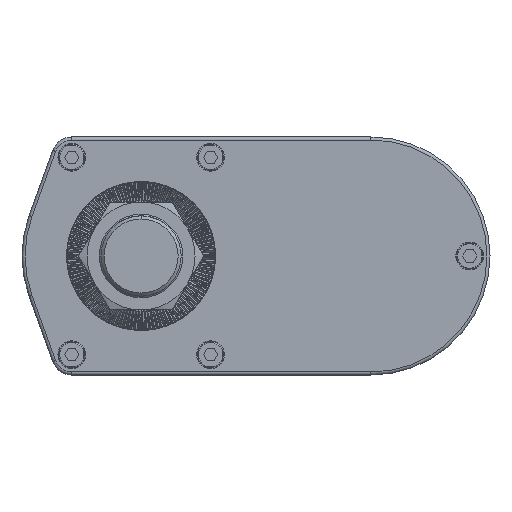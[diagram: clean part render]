
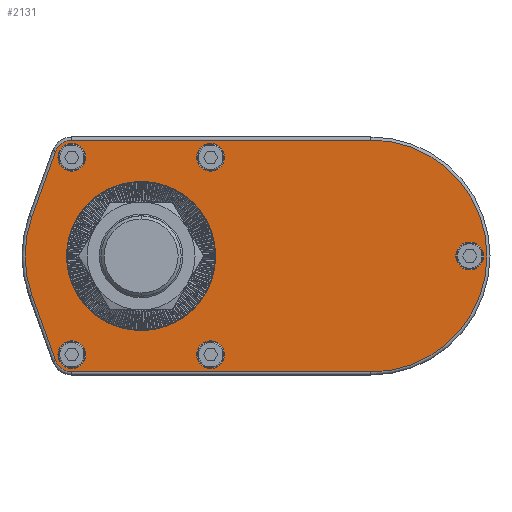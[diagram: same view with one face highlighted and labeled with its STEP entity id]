
A CAD part, left-side view. The second image highlights one B-rep face of the part: STEP entity #2131.
In plain terms, the highlighted planar face has unit normal (-1, 0, 0).
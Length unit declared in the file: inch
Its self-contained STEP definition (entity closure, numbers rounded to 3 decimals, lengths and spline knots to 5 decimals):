
#2131=ADVANCED_FACE('',(#5682,#5683,#5684,#5685,#5686,#5687,#5688),#5689,.F.);
#5682=FACE_BOUND('',#10706,.T.);
#5683=FACE_BOUND('',#10707,.T.);
#5684=FACE_BOUND('',#10708,.T.);
#5685=FACE_BOUND('',#10709,.T.);
#5686=FACE_BOUND('',#10710,.T.);
#5687=FACE_BOUND('',#10711,.T.);
#5688=FACE_OUTER_BOUND('',#10712,.T.);
#5689=PLANE('',#10713);
#10706=EDGE_LOOP('',(#17814,#17815));
#10707=EDGE_LOOP('',(#17816,#17817));
#10708=EDGE_LOOP('',(#17818,#17819));
#10709=EDGE_LOOP('',(#17820,#17821));
#10710=EDGE_LOOP('',(#17822,#17823));
#10711=EDGE_LOOP('',(#17824,#17825));
#10712=EDGE_LOOP('',(#17826,#17827,#17828,#17829,#17830,#17831,#17832,#17833));
#10713=AXIS2_PLACEMENT_3D('',#17834,#17835,#17836);
#17814=ORIENTED_EDGE('',*,*,#31541,.F.);
#17815=ORIENTED_EDGE('',*,*,#31466,.F.);
#17816=ORIENTED_EDGE('',*,*,#31542,.T.);
#17817=ORIENTED_EDGE('',*,*,#31543,.T.);
#17818=ORIENTED_EDGE('',*,*,#31544,.T.);
#17819=ORIENTED_EDGE('',*,*,#31545,.T.);
#17820=ORIENTED_EDGE('',*,*,#31546,.T.);
#17821=ORIENTED_EDGE('',*,*,#31547,.T.);
#17822=ORIENTED_EDGE('',*,*,#31548,.T.);
#17823=ORIENTED_EDGE('',*,*,#31549,.T.);
#17824=ORIENTED_EDGE('',*,*,#31550,.T.);
#17825=ORIENTED_EDGE('',*,*,#31551,.T.);
#17826=ORIENTED_EDGE('',*,*,#31552,.T.);
#17827=ORIENTED_EDGE('',*,*,#31553,.T.);
#17828=ORIENTED_EDGE('',*,*,#31554,.T.);
#17829=ORIENTED_EDGE('',*,*,#31555,.T.);
#17830=ORIENTED_EDGE('',*,*,#31556,.T.);
#17831=ORIENTED_EDGE('',*,*,#31483,.T.);
#17832=ORIENTED_EDGE('',*,*,#31557,.T.);
#17833=ORIENTED_EDGE('',*,*,#31558,.T.);
#17834=CARTESIAN_POINT('',(0.0,-2.93307,0.0));
#17835=DIRECTION('',(1.0,0.0,0.0));
#17836=DIRECTION('',(0.0,1.0,-0.0));
#31466=EDGE_CURVE('',#38227,#37836,#38229,.F.);
#31483=EDGE_CURVE('',#38257,#38254,#38258,.F.);
#31541=EDGE_CURVE('',#37836,#38227,#38354,.F.);
#31542=EDGE_CURVE('',#38355,#38356,#38357,.T.);
#31543=EDGE_CURVE('',#38356,#38355,#38358,.T.);
#31544=EDGE_CURVE('',#38359,#38360,#38361,.T.);
#31545=EDGE_CURVE('',#38360,#38359,#38362,.T.);
#31546=EDGE_CURVE('',#38363,#38364,#38365,.T.);
#31547=EDGE_CURVE('',#38364,#38363,#38366,.T.);
#31548=EDGE_CURVE('',#38367,#38368,#38369,.T.);
#31549=EDGE_CURVE('',#38368,#38367,#38370,.T.);
#31550=EDGE_CURVE('',#38371,#38372,#38373,.T.);
#31551=EDGE_CURVE('',#38372,#38371,#38374,.T.);
#31552=EDGE_CURVE('',#38375,#38376,#38377,.F.);
#31553=EDGE_CURVE('',#38376,#38378,#38379,.F.);
#31554=EDGE_CURVE('',#38378,#38380,#38381,.F.);
#31555=EDGE_CURVE('',#38380,#38382,#38383,.F.);
#31556=EDGE_CURVE('',#38382,#38257,#38384,.F.);
#31557=EDGE_CURVE('',#38254,#38385,#38386,.F.);
#31558=EDGE_CURVE('',#38385,#38375,#38387,.F.);
#37836=VERTEX_POINT('',#46567);
#38227=VERTEX_POINT('',#46959);
#38229=CIRCLE('',#46962,0.94882);
#38254=VERTEX_POINT('',#46995);
#38257=VERTEX_POINT('',#46998);
#38258=LINE('',#46999,#47000);
#38354=CIRCLE('',#47128,0.94882);
#38355=VERTEX_POINT('',#47129);
#38356=VERTEX_POINT('',#47130);
#38357=CIRCLE('',#47131,0.17717);
#38358=CIRCLE('',#47132,0.17717);
#38359=VERTEX_POINT('',#47133);
#38360=VERTEX_POINT('',#47134);
#38361=CIRCLE('',#47135,0.17717);
#38362=CIRCLE('',#47136,0.17717);
#38363=VERTEX_POINT('',#47137);
#38364=VERTEX_POINT('',#47138);
#38365=CIRCLE('',#47139,0.17717);
#38366=CIRCLE('',#47140,0.17717);
#38367=VERTEX_POINT('',#47141);
#38368=VERTEX_POINT('',#47142);
#38369=CIRCLE('',#47143,0.17717);
#38370=CIRCLE('',#47144,0.17717);
#38371=VERTEX_POINT('',#47145);
#38372=VERTEX_POINT('',#47146);
#38373=CIRCLE('',#47147,0.17717);
#38374=CIRCLE('',#47148,0.17717);
#38375=VERTEX_POINT('',#47149);
#38376=VERTEX_POINT('',#47150);
#38377=CIRCLE('',#47151,1.48031);
#38378=VERTEX_POINT('',#47152);
#38379=LINE('',#47153,#47154);
#38380=VERTEX_POINT('',#47155);
#38381=CIRCLE('',#47156,0.22047);
#38382=VERTEX_POINT('',#47157);
#38383=LINE('',#47158,#47159);
#38384=CIRCLE('',#47160,1.48031);
#38385=VERTEX_POINT('',#47161);
#38386=CIRCLE('',#47162,0.22047);
#38387=LINE('',#47163,#47164);
#46567=CARTESIAN_POINT('',(0.0,0.0,-0.94882));
#46959=CARTESIAN_POINT('',(0.0,0.,0.94882));
#46962=AXIS2_PLACEMENT_3D('',#56913,#56914,#56915);
#46995=CARTESIAN_POINT('',(0.0,0.88425,1.48031));
#46998=CARTESIAN_POINT('',(0.0,-2.93307,1.48031));
#46999=CARTESIAN_POINT('',(0.0,0.88425,1.48031));
#47000=VECTOR('',#56936,39.37008);
#47128=AXIS2_PLACEMENT_3D('',#57017,#57018,#57019);
#47129=CARTESIAN_POINT('',(0.0,-4.19449,-0.17717));
#47130=CARTESIAN_POINT('',(0.0,-4.19449,0.17717));
#47131=AXIS2_PLACEMENT_3D('',#57020,#57021,#57022);
#47132=AXIS2_PLACEMENT_3D('',#57023,#57024,#57025);
#47133=CARTESIAN_POINT('',(0.0,0.88425,1.08268));
#47134=CARTESIAN_POINT('',(0.0,0.88425,1.43701));
#47135=AXIS2_PLACEMENT_3D('',#57026,#57027,#57028);
#47136=AXIS2_PLACEMENT_3D('',#57029,#57030,#57031);
#47137=CARTESIAN_POINT('',(0.0,-0.8874,-1.43701));
#47138=CARTESIAN_POINT('',(0.0,-0.8874,-1.08268));
#47139=AXIS2_PLACEMENT_3D('',#57032,#57033,#57034);
#47140=AXIS2_PLACEMENT_3D('',#57035,#57036,#57037);
#47141=CARTESIAN_POINT('',(0.0,-0.8874,1.08268));
#47142=CARTESIAN_POINT('',(0.0,-0.8874,1.43701));
#47143=AXIS2_PLACEMENT_3D('',#57038,#57039,#57040);
#47144=AXIS2_PLACEMENT_3D('',#57041,#57042,#57043);
#47145=CARTESIAN_POINT('',(0.0,0.88425,-1.43701));
#47146=CARTESIAN_POINT('',(0.0,0.88425,-1.08268));
#47147=AXIS2_PLACEMENT_3D('',#57044,#57045,#57046);
#47148=AXIS2_PLACEMENT_3D('',#57047,#57048,#57049);
#47149=CARTESIAN_POINT('',(0.0,1.39217,0.50319));
#47150=CARTESIAN_POINT('',(0.0,1.39217,-0.50319));
#47151=AXIS2_PLACEMENT_3D('',#57050,#57051,#57052);
#47152=CARTESIAN_POINT('',(0.0,1.0916,-1.33479));
#47153=CARTESIAN_POINT('',(0.0,1.0916,-1.33479));
#47154=VECTOR('',#57053,39.37008);
#47155=CARTESIAN_POINT('',(0.0,0.88425,-1.48031));
#47156=AXIS2_PLACEMENT_3D('',#57054,#57055,#57056);
#47157=CARTESIAN_POINT('',(0.0,-2.93307,-1.48031));
#47158=CARTESIAN_POINT('',(0.0,-2.93307,-1.48031));
#47159=VECTOR('',#57057,39.37008);
#47160=AXIS2_PLACEMENT_3D('',#57058,#57059,#57060);
#47161=CARTESIAN_POINT('',(0.0,1.0916,1.33479));
#47162=AXIS2_PLACEMENT_3D('',#57061,#57062,#57063);
#47163=CARTESIAN_POINT('',(0.0,1.39217,0.50319));
#47164=VECTOR('',#57064,39.37008);
#56913=CARTESIAN_POINT('',(0.0,0.0,0.0));
#56914=DIRECTION('',(1.0,0.0,0.0));
#56915=DIRECTION('',(0.0,0.0,-1.0));
#56936=DIRECTION('',(0.0,-1.0,0.0));
#57017=CARTESIAN_POINT('',(0.0,0.0,0.0));
#57018=DIRECTION('',(1.0,0.0,0.0));
#57019=DIRECTION('',(0.0,0.0,-1.0));
#57020=CARTESIAN_POINT('',(0.0,-4.19449,0.0));
#57021=DIRECTION('',(1.0,0.0,0.0));
#57022=DIRECTION('',(0.0,0.0,-1.0));
#57023=CARTESIAN_POINT('',(0.0,-4.19449,0.0));
#57024=DIRECTION('',(1.0,0.0,0.0));
#57025=DIRECTION('',(0.0,0.0,-1.0));
#57026=CARTESIAN_POINT('',(0.0,0.88425,1.25984));
#57027=DIRECTION('',(1.0,0.0,0.0));
#57028=DIRECTION('',(0.0,0.0,-1.0));
#57029=CARTESIAN_POINT('',(0.0,0.88425,1.25984));
#57030=DIRECTION('',(1.0,0.0,0.0));
#57031=DIRECTION('',(0.0,0.0,-1.0));
#57032=CARTESIAN_POINT('',(0.0,-0.8874,-1.25984));
#57033=DIRECTION('',(1.0,0.0,0.0));
#57034=DIRECTION('',(0.0,0.0,-1.0));
#57035=CARTESIAN_POINT('',(0.0,-0.8874,-1.25984));
#57036=DIRECTION('',(1.0,0.0,0.0));
#57037=DIRECTION('',(0.0,0.0,-1.0));
#57038=CARTESIAN_POINT('',(0.0,-0.8874,1.25984));
#57039=DIRECTION('',(1.0,0.0,0.0));
#57040=DIRECTION('',(0.0,0.0,-1.0));
#57041=CARTESIAN_POINT('',(0.0,-0.8874,1.25984));
#57042=DIRECTION('',(1.0,0.0,0.0));
#57043=DIRECTION('',(0.0,0.0,-1.0));
#57044=CARTESIAN_POINT('',(0.0,0.88425,-1.25984));
#57045=DIRECTION('',(1.0,0.0,0.0));
#57046=DIRECTION('',(0.0,0.0,-1.0));
#57047=CARTESIAN_POINT('',(0.0,0.88425,-1.25984));
#57048=DIRECTION('',(1.0,0.0,0.0));
#57049=DIRECTION('',(0.0,0.0,-1.0));
#57050=CARTESIAN_POINT('',(0.0,0.,0.0));
#57051=DIRECTION('',(1.0,0.0,0.0));
#57052=DIRECTION('',(0.0,0.0,-1.0));
#57053=DIRECTION('',(0.0,0.34,0.94));
#57054=CARTESIAN_POINT('',(0.0,0.88425,-1.25984));
#57055=DIRECTION('',(1.0,0.0,0.0));
#57056=DIRECTION('',(0.0,0.0,-1.0));
#57057=DIRECTION('',(0.0,1.0,0.0));
#57058=CARTESIAN_POINT('',(0.0,-2.93307,0.0));
#57059=DIRECTION('',(1.0,0.0,0.0));
#57060=DIRECTION('',(0.0,0.0,-1.0));
#57061=CARTESIAN_POINT('',(0.0,0.88425,1.25984));
#57062=DIRECTION('',(1.0,0.0,0.0));
#57063=DIRECTION('',(0.0,0.0,-1.0));
#57064=DIRECTION('',(0.0,-0.34,0.94));
